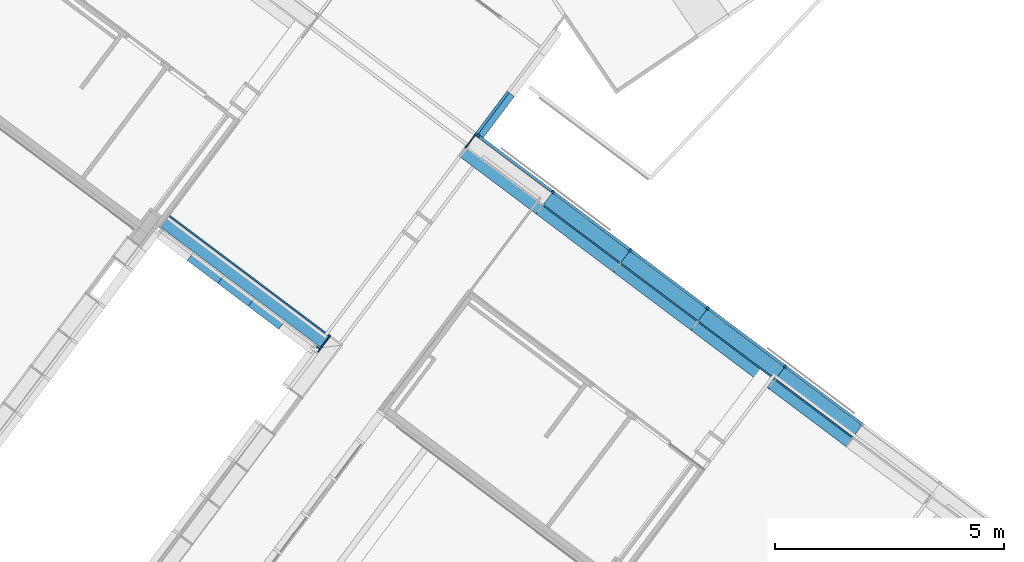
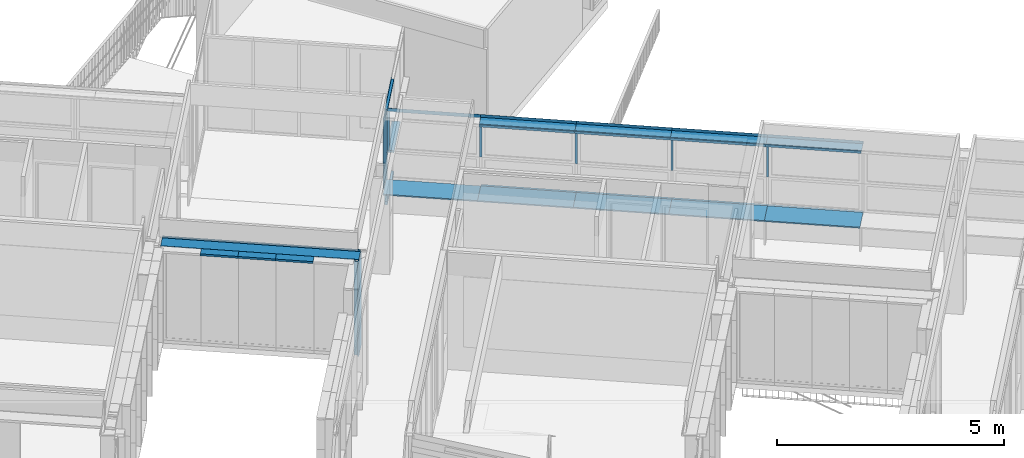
# One storey, part 63 of 243: 34 members, 5 elements without a shape of their own.
"""IFC2X3 building model written with IfcOpenShell, lengths in metres."""

from ifc_helpers import new_model, entity, si_unit, converted_unit, derived_unit, direction, frame, frame_2d, origin, origin_2d_with_axis, place, context, subcontext, project, spatial, polyline, rectangle, outline, extrude, source, transform, mapped, material, type_object, type_shapes, element, aggregate, save


model = new_model("IFC2X3")

# Units and contexts
model_context = context("Model", 3, precision=1e-05, world=origin(), true_north=direction((6.123031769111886e-17, 1.0)))
body_context = subcontext(model_context, "Body", "Model", "MODEL_VIEW")
ifc_project = project(units=[si_unit("LENGTHUNIT", "METRE"), si_unit("AREAUNIT", "SQUARE_METRE"), si_unit("VOLUMEUNIT", "CUBIC_METRE"), converted_unit("PLANEANGLEUNIT", "DEGREE", entity("IfcRatioMeasure", 0.017453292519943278), si_unit("PLANEANGLEUNIT", "RADIAN"), dimensions=[0, 0, 0, 0, 0, 0, 0]), si_unit("MASSUNIT", "GRAM", prefix="KILO"), derived_unit("MASSDENSITYUNIT", [(si_unit("MASSUNIT", "GRAM", prefix="KILO"), 1), (si_unit("LENGTHUNIT", "METRE"), -3)]), derived_unit("IONCONCENTRATIONUNIT", [(si_unit("MASSUNIT", "GRAM", prefix="KILO"), 1), (si_unit("LENGTHUNIT", "METRE"), -3)]), derived_unit("MOMENTOFINERTIAUNIT", [(si_unit("LENGTHUNIT", "METRE"), 4)]), si_unit("TIMEUNIT", "SECOND"), si_unit("FREQUENCYUNIT", "HERTZ"), si_unit("THERMODYNAMICTEMPERATUREUNIT", "DEGREE_CELSIUS"), derived_unit("THERMALTRANSMITTANCEUNIT", [(si_unit("MASSUNIT", "GRAM", prefix="KILO"), 1), (si_unit("THERMODYNAMICTEMPERATUREUNIT", "KELVIN"), -1), (si_unit("TIMEUNIT", "SECOND"), -3)]), derived_unit("THERMALCONDUCTANCEUNIT", [(si_unit("MASSUNIT", "GRAM", prefix="KILO"), 1), (si_unit("THERMODYNAMICTEMPERATUREUNIT", "KELVIN"), -1), (si_unit("TIMEUNIT", "SECOND"), -3), (si_unit("LENGTHUNIT", "METRE"), 1)]), derived_unit("VOLUMETRICFLOWRATEUNIT", [(si_unit("LENGTHUNIT", "METRE"), 3), (si_unit("TIMEUNIT", "SECOND"), -1)]), derived_unit("MASSFLOWRATEUNIT", [(si_unit("MASSUNIT", "GRAM", prefix="KILO"), 1), (si_unit("TIMEUNIT", "SECOND"), -1)]), derived_unit("ROTATIONALFREQUENCYUNIT", [(si_unit("TIMEUNIT", "SECOND"), -1)]), si_unit("ELECTRICCURRENTUNIT", "AMPERE"), si_unit("ELECTRICVOLTAGEUNIT", "VOLT"), si_unit("POWERUNIT", "WATT"), si_unit("FORCEUNIT", "NEWTON", prefix="KILO"), si_unit("ILLUMINANCEUNIT", "LUX"), si_unit("LUMINOUSFLUXUNIT", "LUMEN"), si_unit("LUMINOUSINTENSITYUNIT", "CANDELA"), derived_unit("USERDEFINED", [(si_unit("MASSUNIT", "GRAM", prefix="KILO"), -1), (si_unit("LENGTHUNIT", "METRE"), -2), (si_unit("TIMEUNIT", "SECOND"), 3), (si_unit("LUMINOUSFLUXUNIT", "LUMEN"), 1)]), derived_unit("USERDEFINED", [(si_unit("MASSUNIT", "GRAM", prefix="KILO"), 1), (si_unit("TIMEUNIT", "SECOND"), -3), (si_unit("LENGTHUNIT", "METRE"), 3), (si_unit("ELECTRICCURRENTUNIT", "AMPERE"), -2)]), derived_unit("SOUNDPOWERUNIT", [(si_unit("MASSUNIT", "GRAM", prefix="KILO"), 1), (si_unit("TIMEUNIT", "SECOND"), -3), (si_unit("LENGTHUNIT", "METRE"), 2)]), derived_unit("SOUNDPRESSUREUNIT", [(si_unit("MASSUNIT", "GRAM", prefix="KILO"), 1), (si_unit("LENGTHUNIT", "METRE"), -1), (si_unit("TIMEUNIT", "SECOND"), -2)]), derived_unit("LINEARVELOCITYUNIT", [(si_unit("LENGTHUNIT", "METRE"), 1), (si_unit("TIMEUNIT", "SECOND"), -1)]), si_unit("PRESSUREUNIT", "PASCAL"), derived_unit("USERDEFINED", [(si_unit("MASSUNIT", "GRAM", prefix="KILO"), 1), (si_unit("LENGTHUNIT", "METRE"), -2), (si_unit("TIMEUNIT", "SECOND"), -2)]), derived_unit("LINEARFORCEUNIT", [(si_unit("MASSUNIT", "GRAM", prefix="KILO"), 1), (si_unit("TIMEUNIT", "SECOND"), -2)]), derived_unit("PLANARFORCEUNIT", [(si_unit("MASSUNIT", "GRAM", prefix="KILO"), 1), (si_unit("LENGTHUNIT", "METRE"), -1), (si_unit("TIMEUNIT", "SECOND"), -2)]), derived_unit("SPECIFICHEATCAPACITYUNIT", [(si_unit("THERMODYNAMICTEMPERATUREUNIT", "KELVIN"), -1), (si_unit("LENGTHUNIT", "METRE"), 2), (si_unit("TIMEUNIT", "SECOND"), -2)]), derived_unit("HEATINGVALUEUNIT", [(si_unit("LENGTHUNIT", "METRE"), 2), (si_unit("TIMEUNIT", "SECOND"), -2)]), derived_unit("VAPORPERMEABILITYUNIT", [(si_unit("LENGTHUNIT", "METRE"), -1), (si_unit("TIMEUNIT", "SECOND"), 1)]), derived_unit("DYNAMICVISCOSITYUNIT", [(si_unit("MASSUNIT", "GRAM", prefix="KILO"), 1), (si_unit("TIMEUNIT", "SECOND"), -1), (si_unit("LENGTHUNIT", "METRE"), -1)]), derived_unit("THERMALEXPANSIONCOEFFICIENTUNIT", [(si_unit("THERMODYNAMICTEMPERATUREUNIT", "KELVIN"), -1)]), derived_unit("MODULUSOFELASTICITYUNIT", [(si_unit("MASSUNIT", "GRAM", prefix="KILO"), 1), (si_unit("LENGTHUNIT", "METRE"), -1), (si_unit("TIMEUNIT", "SECOND"), -2)]), derived_unit("ISOTHERMALMOISTURECAPACITYUNIT", [(si_unit("LENGTHUNIT", "METRE"), 3), (si_unit("MASSUNIT", "GRAM", prefix="KILO"), -1)]), derived_unit("MOISTUREDIFFUSIVITYUNIT", [(si_unit("TIMEUNIT", "SECOND"), -1), (si_unit("LENGTHUNIT", "METRE"), 2)])], contexts=[model_context])

# Site, building, storey
site_placement = place(None, frame((0.0, 0.0, 235.0), z_axis=(0.0, 0.0, 1.0), x_axis=(-0.7996477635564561, 0.6004693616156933, 0.0)))
site = spatial("IfcSite", under=ifc_project, at=site_placement, Name="Default", CompositionType="ELEMENT")
building_placement = place(site_placement, origin())
building = spatial("IfcBuilding", under=site, at=building_placement, CompositionType="ELEMENT")
storey_placement = place(building_placement, origin())
storey = spatial("IfcBuildingStorey", under=building, at=storey_placement, Name="P0- Escola", CompositionType="ELEMENT", Elevation=0.0)

# Curtain wall, members
curtain_wall_type_1 = type_object("IfcCurtainWallType", Name="Muro cortina:MC- EXT- MC6", PredefinedType="NOTDEFINED")
curtain_wall_1_placement = place(storey_placement, origin())
curtain_wall_1 = element("IfcCurtainWall", 1, at=curtain_wall_1_placement, inside=storey, type_object=curtain_wall_type_1, Name="Muro cortina:MC- EXT- MC6", ObjectType="Muro cortina:MC- EXT- MC6")
ifc_material_1 = material(Name="_Alumini- T1- Perfil")
member_type_1 = type_object("IfcMemberType", Name="Montante rectangular:MC- Alu- 140x52,5 cm- Fa pista- Superior", PredefinedType="MULLION", material=ifc_material_1)
shared_shape_1 = source(origin(), body_context, "Body", "SweptSolid", [
    extrude(outline(polyline([(-0.03933333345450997, -0.04916666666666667), (0.02066666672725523, -0.04916666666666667), (0.020666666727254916, 0.048333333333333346), (0.018666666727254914, 0.04833333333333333), (0.018666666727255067, 0.00083333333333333), (-0.03933333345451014, 0.00083333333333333), (-0.03933333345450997, -0.04916666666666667)])), frame((-0.048333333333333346, -0.03933333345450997, -2.064344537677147), z_axis=(0.0, 0.0, 1.0), x_axis=(0.0, -1.0, 0.0)), (0.0, 0.0, 1.0), 2.064344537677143),
])
type_shapes(member_type_1, [shared_shape_1])
member_1_placement = place(curtain_wall_1_placement, frame((62.05048814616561, -42.34019175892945, 2.6000000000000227), z_axis=(1.0, 0.0, 0.0), x_axis=(0.0, 0.0, 1.0)))
member_1 = element("IfcMember", 2, at=member_1_placement, type_object=member_type_1, material=ifc_material_1, Name="Montante rectangular:MC- Alu- 140x52,5 cm- Fa pista- Superior", ObjectType="Montante rectangular:MC- Alu- 140x52,5 cm- Fa pista- Superior", context=body_context, shape_type="MappedRepresentation", body=[
    mapped(shared_shape_1, transform((0.0, 0.0, 0.0), scale=1.0)),
])
member_type_2 = type_object("IfcMemberType", Name="Montante rectangular:MC- Alu- 140x52,5 cm- Fa pista- Superior", PredefinedType="MULLION", material=ifc_material_1)
shared_shape_2 = source(origin(), body_context, "Body", "SweptSolid", [
    extrude(outline(polyline([(-0.03933333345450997, -0.04916666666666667), (0.02066666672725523, -0.04916666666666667), (0.020666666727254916, 0.048333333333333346), (0.018666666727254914, 0.04833333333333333), (0.018666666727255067, 0.00083333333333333), (-0.03933333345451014, 0.00083333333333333), (-0.03933333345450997, -0.04916666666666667)])), frame((-0.048333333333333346, -0.03933333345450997, -2.117000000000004), z_axis=(0.0, 0.0, 1.0), x_axis=(0.0, -1.0, 0.0)), (0.0, 0.0, 1.0), 2.117000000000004),
])
type_shapes(member_type_2, [shared_shape_2])
member_2_placement = place(curtain_wall_1_placement, frame((59.986143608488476, -42.34019175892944, 2.6000000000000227), z_axis=(1.0, 0.0, 0.0), x_axis=(0.0, 0.0, 1.0)))
member_2 = element("IfcMember", 3, at=member_2_placement, type_object=member_type_2, material=ifc_material_1, Name="Montante rectangular:MC- Alu- 140x52,5 cm- Fa pista- Superior", ObjectType="Montante rectangular:MC- Alu- 140x52,5 cm- Fa pista- Superior", context=body_context, shape_type="MappedRepresentation", body=[
    mapped(shared_shape_2, transform((0.0, 0.0, 0.0), scale=1.0)),
])
member_3_placement = place(curtain_wall_1_placement, frame((57.86914360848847, -42.34019175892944, 2.6000000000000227), z_axis=(1.0, 0.0, 0.0), x_axis=(0.0, 0.0, 1.0)))
member_3 = element("IfcMember", 4, at=member_3_placement, type_object=member_type_2, material=ifc_material_1, Name="Montante rectangular:MC- Alu- 140x52,5 cm- Fa pista- Superior", ObjectType="Montante rectangular:MC- Alu- 140x52,5 cm- Fa pista- Superior", context=body_context, shape_type="MappedRepresentation", body=[
    mapped(shared_shape_2, transform((0.0, 0.0, 0.0), scale=1.0)),
])
member_4_placement = place(curtain_wall_1_placement, frame((55.75214360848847, -42.340191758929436, 2.6000000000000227), z_axis=(1.0, 0.0, 0.0), x_axis=(0.0, 0.0, 1.0)))
member_4 = element("IfcMember", 5, at=member_4_placement, type_object=member_type_2, material=ifc_material_1, Name="Montante rectangular:MC- Alu- 140x52,5 cm- Fa pista- Superior", ObjectType="Montante rectangular:MC- Alu- 140x52,5 cm- Fa pista- Superior", context=body_context, shape_type="MappedRepresentation", body=[
    mapped(shared_shape_2, transform((0.0, 0.0, 0.0), scale=1.0)),
])
member_5_placement = place(curtain_wall_1_placement, frame((53.63514360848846, -42.34019175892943, 2.6000000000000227), z_axis=(1.0, 0.0, 0.0), x_axis=(0.0, 0.0, 1.0)))
member_5 = element("IfcMember", 6, at=member_5_placement, type_object=member_type_2, material=ifc_material_1, Name="Montante rectangular:MC- Alu- 140x52,5 cm- Fa pista- Superior", ObjectType="Montante rectangular:MC- Alu- 140x52,5 cm- Fa pista- Superior", context=body_context, shape_type="MappedRepresentation", body=[
    mapped(shared_shape_2, transform((0.0, 0.0, 0.0), scale=1.0)),
])
member_type_3 = type_object("IfcMemberType", Name="Montante rectangular:MC- Alu- 52x80 cm- Fa pista- inferior", PredefinedType="MULLION", material=ifc_material_1)
shared_shape_3 = source(origin(), body_context, "Body", "SweptSolid", [
    extrude(rectangle(XDim=0.06000000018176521, YDim=0.085, at=origin_2d_with_axis()), frame((-0.0425, -0.030000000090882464, -2.117000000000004), z_axis=(0.0, 0.0, 1.0), x_axis=(0.0, -1.0, 0.0)), (0.0, 0.0, 1.0), 2.117000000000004),
])
type_shapes(member_type_3, [shared_shape_3])
member_6_placement = place(curtain_wall_1_placement, frame((57.86914360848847, -42.34019175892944, 0.6000000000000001), z_axis=(-1.0, 0.0, 0.0), x_axis=(0.0, 0.0, -1.0)))
member_6 = element("IfcMember", 7, at=member_6_placement, type_object=member_type_3, material=ifc_material_1, Name="Montante rectangular:MC- Alu- 52x80 cm- Fa pista- inferior", ObjectType="Montante rectangular:MC- Alu- 52x80 cm- Fa pista- inferior", context=body_context, shape_type="MappedRepresentation", body=[
    mapped(shared_shape_3, transform((0.0, 0.0, 0.0), scale=1.0)),
])
member_7_placement = place(curtain_wall_1_placement, frame((55.75214360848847, -42.340191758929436, 0.6000000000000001), z_axis=(-1.0, 0.0, 0.0), x_axis=(0.0, 0.0, -1.0)))
member_7 = element("IfcMember", 8, at=member_7_placement, type_object=member_type_3, material=ifc_material_1, Name="Montante rectangular:MC- Alu- 52x80 cm- Fa pista- inferior", ObjectType="Montante rectangular:MC- Alu- 52x80 cm- Fa pista- inferior", context=body_context, shape_type="MappedRepresentation", body=[
    mapped(shared_shape_3, transform((0.0, 0.0, 0.0), scale=1.0)),
])
member_8_placement = place(curtain_wall_1_placement, frame((53.63514360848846, -42.34019175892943, 0.6000000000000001), z_axis=(-1.0, 0.0, 0.0), x_axis=(0.0, 0.0, -1.0)))
member_8 = element("IfcMember", 9, at=member_8_placement, type_object=member_type_3, material=ifc_material_1, Name="Montante rectangular:MC- Alu- 52x80 cm- Fa pista- inferior", ObjectType="Montante rectangular:MC- Alu- 52x80 cm- Fa pista- inferior", context=body_context, shape_type="MappedRepresentation", body=[
    mapped(shared_shape_3, transform((0.0, 0.0, 0.0), scale=1.0)),
])
member_9_placement = place(curtain_wall_1_placement, frame((51.51814360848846, -42.340191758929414, 0.6000000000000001), z_axis=(-1.0, 0.0, 0.0), x_axis=(0.0, 0.0, -1.0)))
member_9 = element("IfcMember", 10, at=member_9_placement, type_object=member_type_3, material=ifc_material_1, Name="Montante rectangular:MC- Alu- 52x80 cm- Fa pista- inferior", ObjectType="Montante rectangular:MC- Alu- 52x80 cm- Fa pista- inferior", context=body_context, shape_type="MappedRepresentation", body=[
    mapped(shared_shape_3, transform((0.0, 0.0, 0.0), scale=1.0)),
])
member_type_4 = type_object("IfcMemberType", Name="Montante rectangular:MC- Alu- 50x60 cm- Fa pista- Centre", PredefinedType="MULLION", material=ifc_material_1)
shared_shape_4 = source(origin(), body_context, "Body", "SweptSolid", [
    extrude(rectangle(XDim=0.06000000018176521, YDim=0.05, at=frame_2d((3.469446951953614e-18, 0.0), x_axis=(1.0, 0.0))), frame((-0.025, -0.030000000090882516, -1.0475000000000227), z_axis=(0.0, 0.0, 1.0), x_axis=(0.0, -1.0, 0.0)), (0.0, 0.0, 1.0), 1.0475000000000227),
])
type_shapes(member_type_4, [shared_shape_4])
member_10_placement = place(curtain_wall_1_placement, frame((62.05048814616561, -42.34019175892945, 1.455), z_axis=(0.0, 0.0, -1.0), x_axis=(1.0, 0.0, 0.0)))
member_10 = element("IfcMember", 11, at=member_10_placement, type_object=member_type_4, material=ifc_material_1, Name="Montante rectangular:MC- Alu- 50x60 cm- Fa pista- Centre", ObjectType="Montante rectangular:MC- Alu- 50x60 cm- Fa pista- Centre", context=body_context, shape_type="MappedRepresentation", body=[
    mapped(shared_shape_4, transform((0.0, 0.0, 0.0), scale=1.0)),
])
member_type_5 = type_object("IfcMemberType", Name="Montante rectangular:MC- Alu- 50x60 cm- Fa pista- Centre", PredefinedType="MULLION", material=ifc_material_1)
shared_shape_5 = source(origin(), body_context, "Body", "SweptSolid", [
    extrude(rectangle(XDim=0.0600000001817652, YDim=0.05, at=frame_2d((8.673617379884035e-18, 0.0), x_axis=(1.0, 0.0))), frame((0.0, -0.030000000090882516, -1.0475000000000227), z_axis=(0.0, 0.0, 1.0), x_axis=(0.0, -1.0, 0.0)), (0.0, 0.0, 1.0), 1.0475000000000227),
])
type_shapes(member_type_5, [shared_shape_5])
member_11_placement = place(curtain_wall_1_placement, frame((53.63514360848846, -42.34019175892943, 1.455), z_axis=(0.0, 0.0, -1.0), x_axis=(1.0, 0.0, 0.0)))
member_11 = element("IfcMember", 12, at=member_11_placement, type_object=member_type_5, material=ifc_material_1, Name="Montante rectangular:MC- Alu- 50x60 cm- Fa pista- Centre", ObjectType="Montante rectangular:MC- Alu- 50x60 cm- Fa pista- Centre", context=body_context, shape_type="MappedRepresentation", body=[
    mapped(shared_shape_5, transform((0.0, 0.0, 0.0), scale=1.0)),
])
member_12_placement = place(curtain_wall_1_placement, frame((55.75214360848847, -42.340191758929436, 1.455), z_axis=(0.0, 0.0, -1.0), x_axis=(1.0, 0.0, 0.0)))
member_12 = element("IfcMember", 13, at=member_12_placement, type_object=member_type_5, material=ifc_material_1, Name="Montante rectangular:MC- Alu- 50x60 cm- Fa pista- Centre", ObjectType="Montante rectangular:MC- Alu- 50x60 cm- Fa pista- Centre", context=body_context, shape_type="MappedRepresentation", body=[
    mapped(shared_shape_5, transform((0.0, 0.0, 0.0), scale=1.0)),
])
member_13_placement = place(curtain_wall_1_placement, frame((57.86914360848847, -42.34019175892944, 1.455), z_axis=(0.0, 0.0, -1.0), x_axis=(1.0, 0.0, 0.0)))
member_13 = element("IfcMember", 14, at=member_13_placement, type_object=member_type_5, material=ifc_material_1, Name="Montante rectangular:MC- Alu- 50x60 cm- Fa pista- Centre", ObjectType="Montante rectangular:MC- Alu- 50x60 cm- Fa pista- Centre", context=body_context, shape_type="MappedRepresentation", body=[
    mapped(shared_shape_5, transform((0.0, 0.0, 0.0), scale=1.0)),
])
member_14_placement = place(curtain_wall_1_placement, frame((59.986143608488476, -42.34019175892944, 1.455), z_axis=(0.0, 0.0, -1.0), x_axis=(1.0, 0.0, 0.0)))
member_14 = element("IfcMember", 15, at=member_14_placement, type_object=member_type_5, material=ifc_material_1, Name="Montante rectangular:MC- Alu- 50x60 cm- Fa pista- Centre", ObjectType="Montante rectangular:MC- Alu- 50x60 cm- Fa pista- Centre", context=body_context, shape_type="MappedRepresentation", body=[
    mapped(shared_shape_5, transform((0.0, 0.0, 0.0), scale=1.0)),
])
aggregate(curtain_wall_1, [member_1, member_2, member_3, member_6, member_4, member_7, member_5, member_8, member_9, member_10, member_11, member_12, member_13, member_14])

curtain_wall_type_2 = type_object("IfcCurtainWallType", PredefinedType="NOTDEFINED")
curtain_wall_2_placement = place(storey_placement, origin())
curtain_wall_2 = element("IfcCurtainWall", 16, at=curtain_wall_2_placement, inside=storey, type_object=curtain_wall_type_2)
ifc_material_2 = material(Name="_Fusta massisa- T1")
member_type_6 = type_object("IfcMemberType", Name="Montante rectangular:MC- Fusta- 34x3 cm- Fa Pista- Remat dreta", PredefinedType="MULLION", material=ifc_material_2)
shared_shape_6 = source(origin(), body_context, "Body", "SweptSolid", [
    extrude(outline(polyline([(-0.22, -0.01666666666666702), (0.12500000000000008, -0.01666666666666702), (0.12500000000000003, 0.013333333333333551), (0.09500000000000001, 0.013333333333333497), (0.09499999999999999, 0.003333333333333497), (-0.22, 0.003333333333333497), (-0.22, -0.01666666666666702)])), frame((-0.013333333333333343, 0.03000000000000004, -1.9099999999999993), z_axis=(0.0, 0.0, 1.0), x_axis=(0.0, -1.0, 0.0)), (0.0, 0.0, 1.0), 1.9099999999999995),
])
type_shapes(member_type_6, [shared_shape_6])
member_15_placement = place(curtain_wall_2_placement, frame((62.11048814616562, -42.03019175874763, 0.6550000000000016), z_axis=(0.0, 0.0, -1.0), x_axis=(1.0, 0.0, 0.0)))
member_15 = element("IfcMember", 17, at=member_15_placement, type_object=member_type_6, material=ifc_material_2, Name="Montante rectangular:MC- Fusta- 34x3 cm- Fa Pista- Remat dreta", ObjectType="Montante rectangular:MC- Fusta- 34x3 cm- Fa Pista- Remat dreta", context=body_context, shape_type="MappedRepresentation", body=[
    mapped(shared_shape_6, transform((0.0, 0.0, 0.0), scale=1.0)),
])
member_type_7 = type_object("IfcMemberType", Name="Montante rectangular:MC- Fusta- 34x3 cm- Fa Pista- Remat Superior", PredefinedType="MULLION", material=ifc_material_2)
shared_shape_7 = source(origin(), body_context, "Body", "SweptSolid", [
    extrude(outline(polyline([(-0.2199999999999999, -0.02666666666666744), (0.12500000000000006, -0.02666666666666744), (0.12499999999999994, 0.03333333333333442), (0.09499999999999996, 0.03333333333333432), (0.09499999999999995, -0.0066666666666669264), (-0.21999999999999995, -0.006666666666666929), (-0.2199999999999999, -0.02666666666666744)])), frame((-0.033333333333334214, 0.029999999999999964, -2.1169999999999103), z_axis=(0.0, 0.0, 1.0), x_axis=(0.0, -1.0, 0.0)), (0.0, 0.0, 1.0), 2.116999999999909),
])
type_shapes(member_type_7, [shared_shape_7])
member_16_placement = place(curtain_wall_2_placement, frame((55.75214360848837, -42.030191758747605, 2.565), z_axis=(1.0, 0.0, 0.0), x_axis=(0.0, 0.0, 1.0)))
member_16 = element("IfcMember", 18, at=member_16_placement, type_object=member_type_7, material=ifc_material_2, Name="Montante rectangular:MC- Fusta- 34x3 cm- Fa Pista- Remat Superior", ObjectType="Montante rectangular:MC- Fusta- 34x3 cm- Fa Pista- Remat Superior", context=body_context, shape_type="MappedRepresentation", body=[
    mapped(shared_shape_7, transform((0.0, 0.0, 0.0), scale=1.0)),
])
member_17_placement = place(curtain_wall_2_placement, frame((57.86914360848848, -42.03019175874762, 2.565), z_axis=(1.0, 0.0, 0.0), x_axis=(0.0, 0.0, 1.0)))
member_17 = element("IfcMember", 19, at=member_17_placement, type_object=member_type_7, material=ifc_material_2, Name="Montante rectangular:MC- Fusta- 34x3 cm- Fa Pista- Remat Superior", ObjectType="Montante rectangular:MC- Fusta- 34x3 cm- Fa Pista- Remat Superior", context=body_context, shape_type="MappedRepresentation", body=[
    mapped(shared_shape_7, transform((0.0, 0.0, 0.0), scale=1.0)),
])
member_18_placement = place(curtain_wall_2_placement, frame((59.98614360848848, -42.03019175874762, 2.5650000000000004), z_axis=(1.0, 0.0, 0.0), x_axis=(0.0, 0.0, 1.0)))
member_18 = element("IfcMember", 20, at=member_18_placement, type_object=member_type_7, material=ifc_material_2, Name="Montante rectangular:MC- Fusta- 34x3 cm- Fa Pista- Remat Superior", ObjectType="Montante rectangular:MC- Fusta- 34x3 cm- Fa Pista- Remat Superior", context=body_context, shape_type="MappedRepresentation", body=[
    mapped(shared_shape_7, transform((0.0, 0.0, 0.0), scale=1.0)),
])
member_19_placement = place(curtain_wall_2_placement, frame((53.63514360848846, -42.0301917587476, 2.5650000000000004), z_axis=(1.0, 0.0, 0.0), x_axis=(0.0, 0.0, 1.0)))
member_19 = element("IfcMember", 21, at=member_19_placement, type_object=member_type_7, material=ifc_material_2, Name="Montante rectangular:MC- Fusta- 34x3 cm- Fa Pista- Remat Superior", ObjectType="Montante rectangular:MC- Fusta- 34x3 cm- Fa Pista- Remat Superior", context=body_context, shape_type="MappedRepresentation", body=[
    mapped(shared_shape_7, transform((0.0, 0.0, 0.0), scale=1.0)),
])
member_type_8 = type_object("IfcMemberType", Name="Montante rectangular:MC- Fusta- 34x3 cm- Fa Pista- Remat Inferior", PredefinedType="MULLION", material=ifc_material_2)
shared_shape_8 = source(origin(), body_context, "Body", "SweptSolid", [
    extrude(outline(polyline([(0.018333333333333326, -0.015000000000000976), (0.2783333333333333, -0.015000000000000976), (0.27833333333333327, 0.015000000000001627), (-0.2966666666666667, 0.014999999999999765), (-0.29666666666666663, 0.0), (0.018333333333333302, 0.0), (0.018333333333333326, -0.015000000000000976)])), frame((0.015000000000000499, -0.046666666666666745, -2.1170000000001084), z_axis=(0.0, 0.0, 1.0), x_axis=(0.0, -1.0, 0.0)), (0.0, 0.0, 1.0), 2.117000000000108),
])
type_shapes(member_type_8, [shared_shape_8])
member_20_placement = place(curtain_wall_2_placement, frame((57.86914360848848, -42.03019175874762, 0.6550000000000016), z_axis=(1.0, 0.0, 0.0), x_axis=(0.0, 0.0, 1.0)))
member_20 = element("IfcMember", 22, at=member_20_placement, type_object=member_type_8, material=ifc_material_2, Name="Montante rectangular:MC- Fusta- 34x3 cm- Fa Pista- Remat Inferior", ObjectType="Montante rectangular:MC- Fusta- 34x3 cm- Fa Pista- Remat Inferior", context=body_context, shape_type="MappedRepresentation", body=[
    mapped(shared_shape_8, transform((0.0, 0.0, 0.0), scale=1.0)),
])
member_21_placement = place(curtain_wall_2_placement, frame((59.98614360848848, -42.03019175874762, 0.6550000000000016), z_axis=(1.0, 0.0, 0.0), x_axis=(0.0, 0.0, 1.0)))
member_21 = element("IfcMember", 23, at=member_21_placement, type_object=member_type_8, material=ifc_material_2, Name="Montante rectangular:MC- Fusta- 34x3 cm- Fa Pista- Remat Inferior", ObjectType="Montante rectangular:MC- Fusta- 34x3 cm- Fa Pista- Remat Inferior", context=body_context, shape_type="MappedRepresentation", body=[
    mapped(shared_shape_8, transform((0.0, 0.0, 0.0), scale=1.0)),
])
member_22_placement = place(curtain_wall_2_placement, frame((55.75214360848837, -42.030191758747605, 0.6550000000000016), z_axis=(1.0, 0.0, 0.0), x_axis=(0.0, 0.0, 1.0)))
member_22 = element("IfcMember", 24, at=member_22_placement, type_object=member_type_8, material=ifc_material_2, Name="Montante rectangular:MC- Fusta- 34x3 cm- Fa Pista- Remat Inferior", ObjectType="Montante rectangular:MC- Fusta- 34x3 cm- Fa Pista- Remat Inferior", context=body_context, shape_type="MappedRepresentation", body=[
    mapped(shared_shape_8, transform((0.0, 0.0, 0.0), scale=1.0)),
])
member_23_placement = place(curtain_wall_2_placement, frame((53.63514360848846, -42.0301917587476, 0.6550000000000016), z_axis=(1.0, 0.0, 0.0), x_axis=(0.0, 0.0, 1.0)))
member_23 = element("IfcMember", 25, at=member_23_placement, type_object=member_type_8, material=ifc_material_2, Name="Montante rectangular:MC- Fusta- 34x3 cm- Fa Pista- Remat Inferior", ObjectType="Montante rectangular:MC- Fusta- 34x3 cm- Fa Pista- Remat Inferior", context=body_context, shape_type="MappedRepresentation", body=[
    mapped(shared_shape_8, transform((0.0, 0.0, 0.0), scale=1.0)),
])
member_type_9 = type_object("IfcMemberType", Name="Montante rectangular:MC- Fusta- 34x3 cm- Fa Pista- Remat Inferior", PredefinedType="MULLION", material=ifc_material_2)
shared_shape_9 = source(origin(), body_context, "Body", "SweptSolid", [
    extrude(outline(polyline([(0.018333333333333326, -0.015000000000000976), (0.2783333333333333, -0.015000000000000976), (0.27833333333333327, 0.015000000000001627), (-0.2966666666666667, 0.014999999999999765), (-0.29666666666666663, 0.0), (0.018333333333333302, 0.0), (0.018333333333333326, -0.015000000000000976)])), frame((0.015000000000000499, -0.046666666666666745, -2.0943445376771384), z_axis=(0.0, 0.0, 1.0), x_axis=(0.0, -1.0, 0.0)), (0.0, 0.0, 1.0), 2.0943445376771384),
])
type_shapes(member_type_9, [shared_shape_9])
member_24_placement = place(curtain_wall_2_placement, frame((62.08048814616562, -42.03019175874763, 0.6550000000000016), z_axis=(1.0, 0.0, 0.0), x_axis=(0.0, 0.0, 1.0)))
member_24 = element("IfcMember", 26, at=member_24_placement, type_object=member_type_9, material=ifc_material_2, Name="Montante rectangular:MC- Fusta- 34x3 cm- Fa Pista- Remat Inferior", ObjectType="Montante rectangular:MC- Fusta- 34x3 cm- Fa Pista- Remat Inferior", context=body_context, shape_type="MappedRepresentation", body=[
    mapped(shared_shape_9, transform((0.0, 0.0, 0.0), scale=1.0)),
])
aggregate(curtain_wall_2, [member_15, member_16, member_20, member_17, member_21, member_18, member_24, member_19, member_22, member_23])

curtain_wall_type_3 = type_object("IfcCurtainWallType", PredefinedType="NOTDEFINED")
curtain_wall_3_placement = place(storey_placement, origin())
curtain_wall_3 = element("IfcCurtainWall", 27, at=curtain_wall_3_placement, inside=storey, type_object=curtain_wall_type_3)
member_type_10 = type_object("IfcMemberType", Name="Montante rectangular:MC- Alu- 52x80 cm- Fa pista- inferior", PredefinedType="MULLION", material=ifc_material_1)
shared_shape_10 = source(origin(), body_context, "Body", "SweptSolid", [
    extrude(rectangle(XDim=0.06000000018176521, YDim=0.085, at=origin_2d_with_axis()), frame((-0.0425, -0.030000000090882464, -1.1909981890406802), z_axis=(0.0, 0.0, 1.0), x_axis=(0.0, -1.0, 0.0)), (0.0, 0.0, 1.0), 1.1909981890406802),
])
type_shapes(member_type_10, [shared_shape_10])
member_25_placement = place(curtain_wall_3_placement, frame((62.05048814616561, -42.28019175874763, 0.0), z_axis=(0.0, 1.0, 0.0), x_axis=(0.0, 0.0, -1.0)))
member_25 = element("IfcMember", 28, at=member_25_placement, type_object=member_type_10, material=ifc_material_1, Name="Montante rectangular:MC- Alu- 52x80 cm- Fa pista- inferior", ObjectType="Montante rectangular:MC- Alu- 52x80 cm- Fa pista- inferior", context=body_context, shape_type="MappedRepresentation", body=[
    mapped(shared_shape_10, transform((0.0, 0.0, 0.0), scale=1.0)),
])
member_type_11 = type_object("IfcMemberType", Name="Montante rectangular:MC- Alu- 50x60 cm- Fa pista- Centre", PredefinedType="MULLION", material=ifc_material_1)
shared_shape_11 = source(origin(), body_context, "Body", "SweptSolid", [
    extrude(rectangle(XDim=0.0600000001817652, YDim=0.05, at=frame_2d((-8.673617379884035e-18, 0.0), x_axis=(1.0, 0.0))), frame((-0.025, -0.030000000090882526, -1.1025), z_axis=(0.0, 0.0, 1.0), x_axis=(0.0, -1.0, 0.0)), (0.0, 0.0, 1.0), 1.1025),
])
type_shapes(member_type_11, [shared_shape_11])
member_26_placement = place(curtain_wall_3_placement, frame((62.05048814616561, -42.28019175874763, 2.502500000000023), z_axis=(0.0, 0.0, 1.0), x_axis=(0.0, 1.0, 0.0)))
member_26 = element("IfcMember", 29, at=member_26_placement, type_object=member_type_11, material=ifc_material_1, Name="Montante rectangular:MC- Alu- 50x60 cm- Fa pista- Centre", ObjectType="Montante rectangular:MC- Alu- 50x60 cm- Fa pista- Centre", context=body_context, shape_type="MappedRepresentation", body=[
    mapped(shared_shape_11, transform((0.0, 0.0, 0.0), scale=1.0)),
])
member_type_12 = type_object("IfcMemberType", Name="Montante rectangular:MC- Alu- 140x52,5 cm- Fa pista- Superior", PredefinedType="MULLION", material=ifc_material_1)
shared_shape_12 = source(origin(), body_context, "Body", "SweptSolid", [
    extrude(outline(polyline([(-0.03933333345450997, -0.04916666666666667), (0.02066666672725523, -0.04916666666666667), (0.020666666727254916, 0.048333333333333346), (0.018666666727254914, 0.04833333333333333), (0.018666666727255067, 0.00083333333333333), (-0.03933333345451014, 0.00083333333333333), (-0.03933333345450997, -0.04916666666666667)])), frame((-0.048333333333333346, -0.03933333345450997, -1.1909981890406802), z_axis=(0.0, 0.0, 1.0), x_axis=(0.0, -1.0, 0.0)), (0.0, 0.0, 1.0), 1.1909981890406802),
])
type_shapes(member_type_12, [shared_shape_12])
member_27_placement = place(curtain_wall_3_placement, frame((62.05048814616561, -43.47118994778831, 2.6000000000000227), z_axis=(0.0, -1.0, 0.0), x_axis=(0.0, 0.0, 1.0)))
member_27 = element("IfcMember", 30, at=member_27_placement, type_object=member_type_12, material=ifc_material_1, Name="Montante rectangular:MC- Alu- 140x52,5 cm- Fa pista- Superior", ObjectType="Montante rectangular:MC- Alu- 140x52,5 cm- Fa pista- Superior", context=body_context, shape_type="MappedRepresentation", body=[
    mapped(shared_shape_12, transform((0.0, 0.0, 0.0), scale=1.0)),
])
member_type_13 = type_object("IfcMemberType", Name="Montante rectangular:MC- Alu- 50x60 cm- Fa pista- Centre", PredefinedType="MULLION", material=ifc_material_1)
shared_shape_13 = source(origin(), body_context, "Body", "SweptSolid", [
    extrude(rectangle(XDim=0.0600000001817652, YDim=0.05, at=frame_2d((-8.673617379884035e-18, 0.0), x_axis=(1.0, 0.0))), frame((-0.025, -0.030000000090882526, -1.3150000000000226), z_axis=(0.0, 0.0, 1.0), x_axis=(0.0, -1.0, 0.0)), (0.0, 0.0, 1.0), 1.3150000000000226),
])
type_shapes(member_type_13, [shared_shape_13])
member_28_placement = place(curtain_wall_3_placement, frame((62.05048814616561, -42.28019175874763, 1.4000000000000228), z_axis=(0.0, 0.0, 1.0), x_axis=(0.0, 1.0, 0.0)))
member_28 = element("IfcMember", 31, at=member_28_placement, type_object=member_type_13, material=ifc_material_1, Name="Montante rectangular:MC- Alu- 50x60 cm- Fa pista- Centre", ObjectType="Montante rectangular:MC- Alu- 50x60 cm- Fa pista- Centre", context=body_context, shape_type="MappedRepresentation", body=[
    mapped(shared_shape_13, transform((0.0, 0.0, 0.0), scale=1.0)),
])
member_type_14 = type_object("IfcMemberType", Name="Montante rectangular:MC- Alu- 140x52,5 cm- Fa patis- Centre", PredefinedType="MULLION", material=ifc_material_1)
shared_shape_14 = source(origin(), body_context, "Body", "SweptSolid", [
    extrude(outline(polyline([(-0.11699999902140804, -0.026250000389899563), (0.021999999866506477, -0.026250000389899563), (0.021999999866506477, -0.01500000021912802), (0.07299999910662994, -0.01500000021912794), (0.07299999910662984, 0.015000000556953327), (0.02200000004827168, 0.015000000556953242), (0.02200000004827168, 0.026250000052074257), (-0.11699999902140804, 0.026250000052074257), (-0.11699999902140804, -0.026250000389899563)])), frame((0.0, 0.022999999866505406, -1.1409981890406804), z_axis=(0.0, 0.0, 1.0), x_axis=(0.0, -1.0, 0.0)), (0.0, 0.0, 1.0), 1.1409981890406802),
])
type_shapes(member_type_14, [shared_shape_14])
member_29_placement = place(curtain_wall_3_placement, frame((62.05048814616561, -43.47118994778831, 1.4000000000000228), z_axis=(0.0, -1.0, 0.0), x_axis=(0.0, 0.0, 1.0)))
member_29 = element("IfcMember", 32, at=member_29_placement, type_object=member_type_14, material=ifc_material_1, Name="Montante rectangular:MC- Alu- 140x52,5 cm- Fa patis- Centre", ObjectType="Montante rectangular:MC- Alu- 140x52,5 cm- Fa patis- Centre", context=body_context, shape_type="MappedRepresentation", body=[
    mapped(shared_shape_14, transform((0.0, 0.0, 0.0), scale=1.0)),
])
aggregate(curtain_wall_3, [member_25, member_26, member_27, member_28, member_29])

curtain_wall_type_4 = type_object("IfcCurtainWallType", Name="Muro cortina:MC- INT- k2", PredefinedType="NOTDEFINED")
curtain_wall_4_placement = place(storey_placement, origin())
curtain_wall_4 = element("IfcCurtainWall", 33, at=curtain_wall_4_placement, inside=storey, type_object=curtain_wall_type_4, Name="Muro cortina:MC- INT- k2", ObjectType="Muro cortina:MC- INT- k2")
member_type_15 = type_object("IfcMemberType", Name="Montante rectangular:MC- Fusta- 35x3 cm- Pati aules- Remat superior", PredefinedType="MULLION", material=ifc_material_2)
shared_shape_15 = source(origin(), body_context, "Body", "SweptSolid", [
    extrude(outline(polyline([(-0.12166666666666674, -0.02666666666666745), (0.21333333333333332, -0.02666666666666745), (0.2133333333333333, -0.006666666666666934), (-0.09166666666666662, -0.006666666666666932), (-0.09166666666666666, 0.03333333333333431), (-0.12166666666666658, 0.03333333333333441), (-0.12166666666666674, -0.02666666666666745)])), frame((-0.033333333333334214, -0.026666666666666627, -4.389999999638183), z_axis=(0.0, 0.0, 1.0), x_axis=(0.0, -1.0, 0.0)), (0.0, 0.0, 1.0), 4.3899999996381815),
])
type_shapes(member_type_15, [shared_shape_15])
member_30_placement = place(curtain_wall_4_placement, frame((66.38014768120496, -36.78518994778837, 2.565), z_axis=(1.0, 0.0, 0.0), x_axis=(0.0, 0.0, 1.0)))
member_30 = element("IfcMember", 34, at=member_30_placement, type_object=member_type_15, material=ifc_material_2, Name="Montante rectangular:MC- Fusta- 35x3 cm- Pati aules- Remat superior", ObjectType="Montante rectangular:MC- Fusta- 35x3 cm- Pati aules- Remat superior", context=body_context, shape_type="MappedRepresentation", body=[
    mapped(shared_shape_15, transform((0.0, 0.0, 0.0), scale=1.0)),
])
member_type_16 = type_object("IfcMemberType", Name="Montante rectangular:MC- Fusta- 45x3 cm- Pati aules- Cantonada", PredefinedType="MULLION", material=ifc_material_2)
shared_shape_16 = source(origin(), body_context, "Body", "SweptSolid", [
    extrude(outline(polyline([(-0.29999999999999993, -0.043750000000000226), (0.15000000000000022, -0.043750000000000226), (0.15000000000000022, -0.01374999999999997), (0.09000000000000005, -0.013749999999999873), (0.08999999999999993, 0.07125000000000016), (0.059999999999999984, 0.0712500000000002), (0.06000000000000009, -0.01374999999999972), (-0.3000000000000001, -0.013750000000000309), (-0.29999999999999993, -0.043750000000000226)])), frame((0.028749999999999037, -0.20500000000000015, -2.5049999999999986), z_axis=(0.0, 0.0, 1.0), x_axis=(0.0, -1.0, 0.0)), (0.0, 0.0, 1.0), 2.5049999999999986),
])
type_shapes(member_type_16, [shared_shape_16])
member_31_placement = place(curtain_wall_4_placement, frame((61.990147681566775, -36.785189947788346, 0.0), z_axis=(0.0, 0.0, -1.0), x_axis=(1.0, 0.0, 0.0)))
member_31 = element("IfcMember", 35, at=member_31_placement, type_object=member_type_16, material=ifc_material_2, Name="Montante rectangular:MC- Fusta- 45x3 cm- Pati aules- Cantonada", ObjectType="Montante rectangular:MC- Fusta- 45x3 cm- Pati aules- Cantonada", context=body_context, shape_type="MappedRepresentation", body=[
    mapped(shared_shape_16, transform((0.0, 0.0, 0.0), scale=1.0)),
])
aggregate(curtain_wall_4, [member_30, member_31])

curtain_wall_type_5 = type_object("IfcCurtainWallType", PredefinedType="NOTDEFINED")
curtain_wall_5_placement = place(storey_placement, origin())
curtain_wall_5 = element("IfcCurtainWall", 36, at=curtain_wall_5_placement, inside=storey, type_object=curtain_wall_type_5)
member_type_17 = type_object("IfcMemberType", Name="Montante rectangular:MC- Alu- 140x52,5 cm- Fa patis- Superior", PredefinedType="MULLION", material=ifc_material_1)
shared_shape_17 = source(origin(), body_context, "Body", "SweptSolid", [
    extrude(outline(polyline([(-0.026333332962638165, -0.021249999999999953), (0.11366666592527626, -0.021249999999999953), (0.11366666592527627, 0.031250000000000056), (-0.08733333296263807, 0.03125000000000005), (-0.0873333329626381, -0.010000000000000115), (-0.026333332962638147, -0.010000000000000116), (-0.026333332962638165, -0.021249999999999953)])), frame((-0.031250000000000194, -0.02733333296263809, -0.8327999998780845), z_axis=(0.0, 0.0, 1.0), x_axis=(0.0, -1.0, 0.0)), (0.0, 0.0, 1.0), 0.8327999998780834),
])
type_shapes(member_type_17, [shared_shape_17])
member_32_placement = place(curtain_wall_5_placement, frame((63.808747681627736, -36.45518994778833, 2.545), z_axis=(1.0, 0.0, 0.0), x_axis=(0.0, 0.0, 1.0)))
member_32 = element("IfcMember", 37, at=member_32_placement, type_object=member_type_17, material=ifc_material_1, Name="Montante rectangular:MC- Alu- 140x52,5 cm- Fa patis- Superior", ObjectType="Montante rectangular:MC- Alu- 140x52,5 cm- Fa patis- Superior", context=body_context, shape_type="MappedRepresentation", body=[
    mapped(shared_shape_17, transform((0.0, 0.0, 0.0), scale=1.0)),
])
member_33_placement = place(curtain_wall_5_placement, frame((64.64154768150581, -36.45518994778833, 2.545), z_axis=(1.0, 0.0, 0.0), x_axis=(0.0, 0.0, 1.0)))
member_33 = element("IfcMember", 38, at=member_33_placement, type_object=member_type_17, material=ifc_material_1, Name="Montante rectangular:MC- Alu- 140x52,5 cm- Fa patis- Superior", ObjectType="Montante rectangular:MC- Alu- 140x52,5 cm- Fa patis- Superior", context=body_context, shape_type="MappedRepresentation", body=[
    mapped(shared_shape_17, transform((0.0, 0.0, 0.0), scale=1.0)),
])
member_34_placement = place(curtain_wall_5_placement, frame((65.47434768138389, -36.455189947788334, 2.545), z_axis=(1.0, 0.0, 0.0), x_axis=(0.0, 0.0, 1.0)))
member_34 = element("IfcMember", 39, at=member_34_placement, type_object=member_type_17, material=ifc_material_1, Name="Montante rectangular:MC- Alu- 140x52,5 cm- Fa patis- Superior", ObjectType="Montante rectangular:MC- Alu- 140x52,5 cm- Fa patis- Superior", context=body_context, shape_type="MappedRepresentation", body=[
    mapped(shared_shape_17, transform((0.0, 0.0, 0.0), scale=1.0)),
])
aggregate(curtain_wall_5, [member_32, member_33, member_34])

save(model, "model.ifc")
